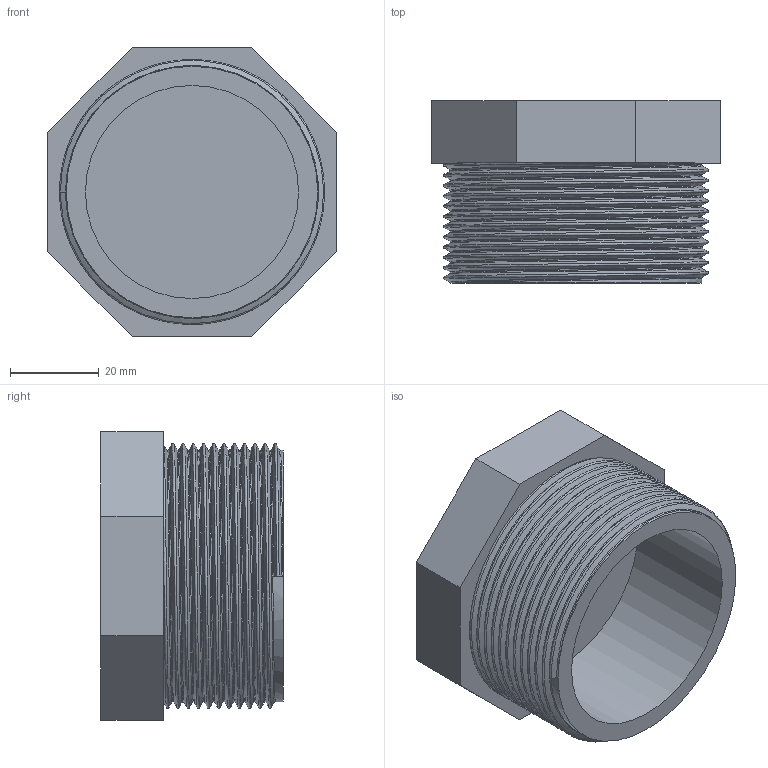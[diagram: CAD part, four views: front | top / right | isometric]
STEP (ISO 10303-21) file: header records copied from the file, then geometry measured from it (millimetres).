
FILE_DESCRIPTION(/* description */ ('PVC tappo filettato BSP maschio'),/* implementation_level */ '2;1');
FILE_NAME(/* name */ 'C:\Users\POLYPIPE\Desktop\DATASET INVENTOR\LIBRERIA EFFAST\RACCORDI 3DxWEB\RER\3D_RERTAE\3D_RERTAE063G.stp',/* time_stamp */ '2018-01-19T17:18:22+01:00',/* author */ ('POLYPIPE'),/* organization */ ('Polypipe Italia s.r.l.'),/* preprocessor_version */ 'ST-DEVELOPER v16.1',/* originating_system */ 'Autodesk Inventor 2016',/* authorisation */ '');
FILE_SCHEMA (('CONFIG_CONTROL_DESIGN'));
Length unit declared in the file: millimetre
Products named in the file (1): 3D_RERTAE
Bounding box: 65 x 41 x 65 mm (x, y, z)
Volume: 71695.4 mm3; surface area: 22237.9 mm2
Topology: 1 solids, 1 shells, 20 faces, 45 edges, 29 vertices
Faces by surface type: plane 13, bspline 5, cylinder 2
Full cylindrical faces by diameter (mm): 48 x1, 56.656 x1
Entity records: 5073 total; most frequent: CARTESIAN_POINT 4634, ORIENTED_EDGE 88, DIRECTION 71, EDGE_CURVE 44, VERTEX_POINT 29, LINE 27, VECTOR 27, EDGE_LOOP 23
